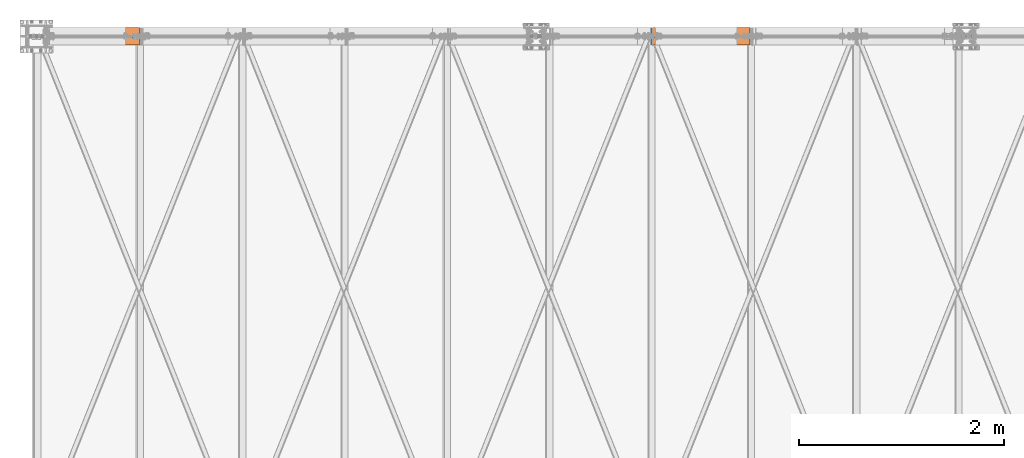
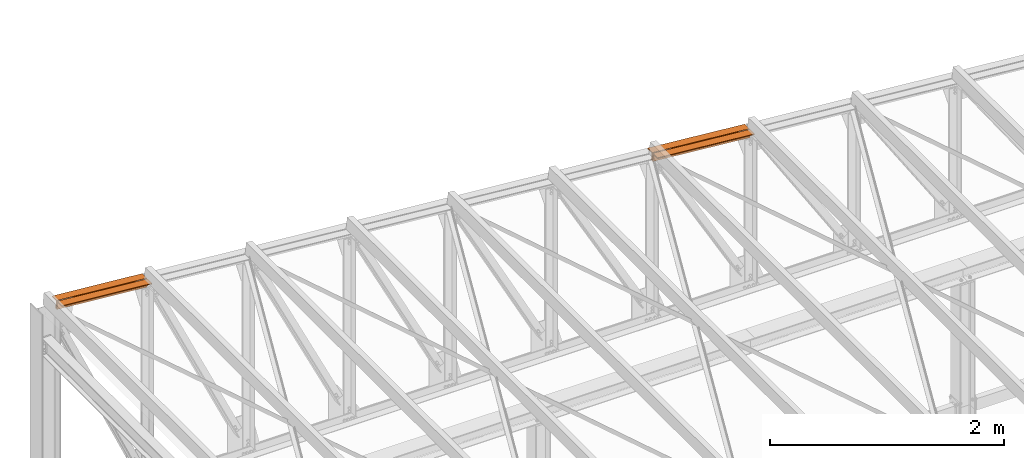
# One storey, part 250 of 251: 4 proxies.
"""IFC4 building model written with IfcOpenShell, lengths in metres."""

from ifc_helpers import new_model, si_unit, frame, origin_with_axes, origin_2d_with_axis, place, context, project, spatial, polyline, i_section, outline, extrude, material, material_profile, profile_set, profile_usage, type_object, element, save


model = new_model("IFC4")

# Units and contexts
model_context = context("Model", 3, precision=1e-05, world=origin_with_axes())
ifc_project = project(units=[si_unit("LENGTHUNIT", "METRE"), si_unit("AREAUNIT", "SQUARE_METRE"), si_unit("VOLUMEUNIT", "CUBIC_METRE"), si_unit("MASSUNIT", "GRAM", prefix="KILO"), si_unit("TIMEUNIT", "SECOND"), si_unit("PLANEANGLEUNIT", "RADIAN"), si_unit("SOLIDANGLEUNIT", "STERADIAN"), si_unit("THERMODYNAMICTEMPERATUREUNIT", "DEGREE_CELSIUS")], contexts=[model_context])

# Site, building, storey
placement_1 = place(None, origin_with_axes())
site = spatial("IfcSite", under=ifc_project, at=placement_1, Name="Italia", CompositionType="ELEMENT")
building = spatial("IfcBuilding", under=site, at=placement_1, Name="Deposito", CompositionType="ELEMENT")
storey = spatial("IfcBuildingStorey", under=building, at=placement_1, Name="Storey 0", CompositionType="ELEMENT", Elevation=0.0)

# Proxies
ifc_material = material(Name="Acciaio", Category="Acciaio")
ifc_material_profile = material_profile(ifc_material, i_section(OverallWidth=0.2, OverallDepth=0.19, WebThickness=0.006, FlangeThickness=0.01, FilletRadius=0.018, at=origin_2d_with_axis()), Name="7 PILASTRO HEA200")
ifc_profile_set = profile_set([ifc_material_profile])
ifc_profile_usage_1 = profile_usage(ifc_profile_set, cardinal=2)
member_type_1 = type_object("IfcMemberType", Name="5 2L80x8", PredefinedType="MEMBER", material=ifc_profile_usage_1)
placement_2 = place(placement_1, origin_with_axes())
proxy_1_placement = place(placement_2, origin_with_axes())
element("IfcBuildingElementProxy", 1, at=proxy_1_placement, inside=storey, type_object=member_type_1, Name="230075", context=model_context, shape_type="SweptSolid", body=[
    extrude(outline(polyline([(0.0, 0.0), (0.0799999, 0.0), (0.0799999, -0.0079999), (0.00800133, -0.0079999), (0.00800133, -0.0799999), (0.0, -0.0799999), (0.0, 0.0)])), frame((12.0375, 20.005, 6.71922), z_axis=(0.995984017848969, 0.0, -0.089531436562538), x_axis=(0.0, 1.0, 0.0)), (0.0, 0.0, 1.0), 0.963416),
])
ifc_profile_usage_2 = profile_usage(ifc_profile_set, cardinal=2)
member_type_2 = type_object("IfcMemberType", Name="5 2L80x8", PredefinedType="MEMBER", material=ifc_profile_usage_2)
proxy_2_placement = place(placement_2, origin_with_axes())
element("IfcBuildingElementProxy", 2, at=proxy_2_placement, inside=storey, type_object=member_type_2, Name="230075", context=model_context, shape_type="SweptSolid", body=[
    extrude(outline(polyline([(0.0, 0.0), (-0.00800133, 0.0), (-0.00800133, 0.072), (-0.0799999, 0.072), (-0.0799999, 0.0799999), (0.0, 0.0799999), (0.0, 0.0)])), frame((12.0303, 19.995, 6.63954), z_axis=(0.995984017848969, 0.0, -0.089531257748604), x_axis=(0.0, 1.0, 0.0)), (0.0, 0.0, 1.0), 0.963418),
])
ifc_profile_usage_3 = profile_usage(ifc_profile_set, cardinal=2)
member_type_3 = type_object("IfcMemberType", Name="5 2L80x8", PredefinedType="MEMBER", material=ifc_profile_usage_3)
proxy_3_placement = place(placement_2, origin_with_axes())
element("IfcBuildingElementProxy", 3, at=proxy_3_placement, inside=storey, type_object=member_type_3, Name="230075", context=model_context, shape_type="SweptSolid", body=[
    extrude(outline(polyline([(0.0, 0.0), (0.0799999, 0.0), (0.0799999, -0.0079999), (0.00800133, -0.0079999), (0.00800133, -0.0799999), (0.0, -0.0799999), (0.0, 0.0)])), frame((6.162, 20.005, 7.23302), z_axis=(0.996219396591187, 0.0, -0.086873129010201), x_axis=(0.0, 1.0, 0.0)), (0.0, 0.0, 1.0), 0.892801),
])
ifc_profile_usage_4 = profile_usage(ifc_profile_set, cardinal=2)
member_type_4 = type_object("IfcMemberType", Name="5 2L80x8", PredefinedType="MEMBER", material=ifc_profile_usage_4)
proxy_4_placement = place(placement_2, origin_with_axes())
element("IfcBuildingElementProxy", 4, at=proxy_4_placement, inside=storey, type_object=member_type_4, Name="230075", context=model_context, shape_type="SweptSolid", body=[
    extrude(outline(polyline([(0.0, 0.0), (-0.00800133, 0.0), (-0.00800133, 0.0719995), (-0.0799999, 0.0719995), (-0.0799999, 0.0799999), (0.0, 0.0799999), (0.0, 0.0)])), frame((6.15505, 19.995, 7.15332), z_axis=(0.996219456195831, 0.0, -0.086872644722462), x_axis=(0.0, 1.0, 0.0)), (0.0, 0.0, 1.0), 0.892801),
])

save(model, "model.ifc")
